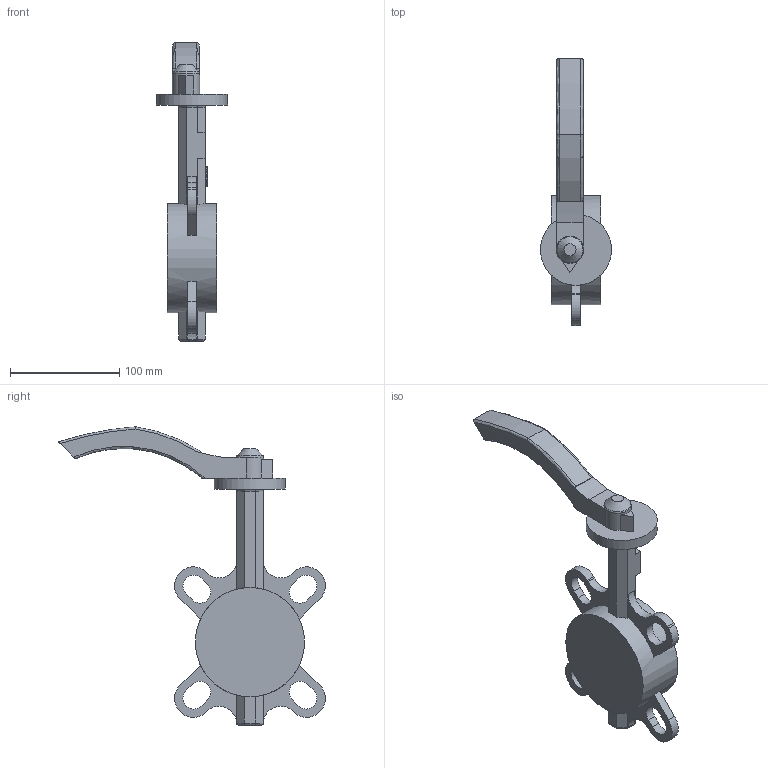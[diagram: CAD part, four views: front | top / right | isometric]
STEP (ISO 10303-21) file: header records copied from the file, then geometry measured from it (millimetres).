
FILE_DESCRIPTION(/* description */ (''),/* implementation_level */ '2;1');
FILE_NAME(/* name */ 'DN65-.stp',/* time_stamp */ '2026-08-14T15:32:04+08:00',/* author */ (''),/* organization */ (''),/* preprocessor_version */ 'ST-DEVELOPER v16.7',/* originating_system */ 'SIEMENS PLM Software NX 12.0',/* authorisation */ '');
FILE_SCHEMA (('AUTOMOTIVE_DESIGN { 1 0 10303 214 3 1 1 1 }'));
Length unit declared in the file: millimetre
Products named in the file (2): 手柄40-80; DN65
Assembly tree (1 placements, depth 2):
  DN65
    手柄40-80
Bounding box: 65 x 243.96 x 273 mm (x, y, z)
Volume: 593923.4 mm3; surface area: 83505.9 mm2
Topology: 7 solids, 7 shells, 201 faces, 533 edges, 349 vertices
Faces by surface type: plane 97, cylinder 48, extrusion 48, torus 7, cone 1
Full cylindrical faces by diameter (mm): 25 x1, 65 x1, 100 x1
Entity records: 6588 total; most frequent: CARTESIAN_POINT 1680, ORIENTED_EDGE 1048, DIRECTION 864, EDGE_CURVE 524, VECTOR 356, VERTEX_POINT 345, LINE 308, AXIS2_PLACEMENT_3D 254
